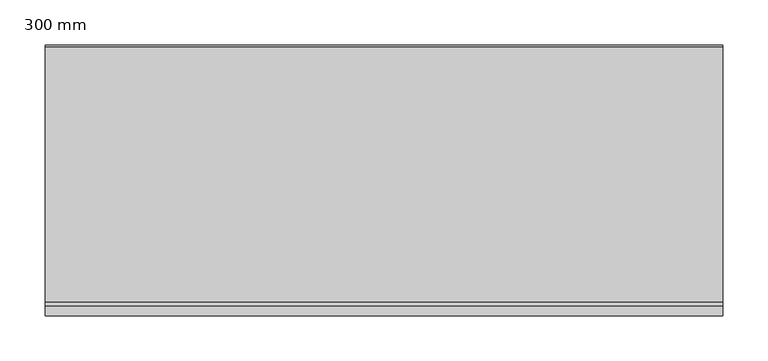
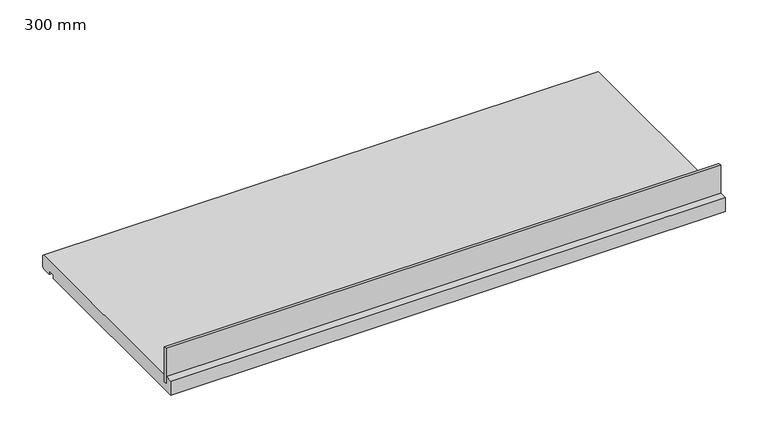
"""IFC4 building model written with IfcOpenShell, lengths in millimetres: proxy geometry, 400_35_NS_raamdorpel_kunststof_klik : 300 mm."""

from ifc_helpers import new_model, si_unit, frame, origin, place, context, project, spatial, polyline, outline, extrude, source, transform, mapped, element, save


def proxy_300_mm_4064e9de(model_context):
    return source(origin(), model_context, "Body", "SweptSolid", [
        extrude(outline(polyline([(-375.0, 11.0), (-375.0, 15.0), (375.0, 15.0), (375.0, 11.0), (-375.0, 11.0)])), frame((0.0, 0.0, 10.0), z_axis=(0.0, 0.0, 1.0), x_axis=(1.0, 0.0, 0.0)), (0.0, 0.0, 1.0), 50.0),
        extrude(outline(polyline([(15.0, 20.0), (298.0, 20.0), (300.0, 18.0), (300.0, 2.0), (298.0, 0.0), (285.0, 0.0), (285.0, 5.0), (275.0, 5.0), (275.0, 0.0), (0.0, 0.0), (0.0, 20.0), (11.0, 20.0), (11.0, 10.0), (15.0, 10.0), (15.0, 20.0)])), frame((-375.0, 0.0, 0.0), z_axis=(1.0, 0.0, 0.0), x_axis=(0.0, 1.0, 0.0)), (0.0, 0.0, 1.0), 750.0),
    ])


if __name__ == "__main__":
    model = new_model("IFC4")
    model_context = context("Model", 3, world=origin())
    ifc_project = project(units=[si_unit("LENGTHUNIT", "METRE", prefix="MILLI")], contexts=[model_context])
    site = spatial("IfcSite", under=ifc_project)
    building = spatial("IfcBuilding", under=site)
    placement = place(None, origin())
    proxy_300_mm_shape = proxy_300_mm_4064e9de(model_context)
    element("IfcBuildingElementProxy", 1, Name="400_35_NS_raamdorpel_kunststof_klik : 300 mm", ObjectType="400_35_NS_raamdorpel_kunststof_klik : 300 mm", at=placement, inside=building, context=model_context, shape_type="MappedRepresentation", body=[
        mapped(proxy_300_mm_shape, transform((0.0, 0.0, 0.0), x_axis=(1.0, 0.0, 0.0), y_axis=(0.0, 1.0, 0.0), z_axis=(0.0, 0.0, 1.0))),
    ])
    save(model, "model.ifc")
